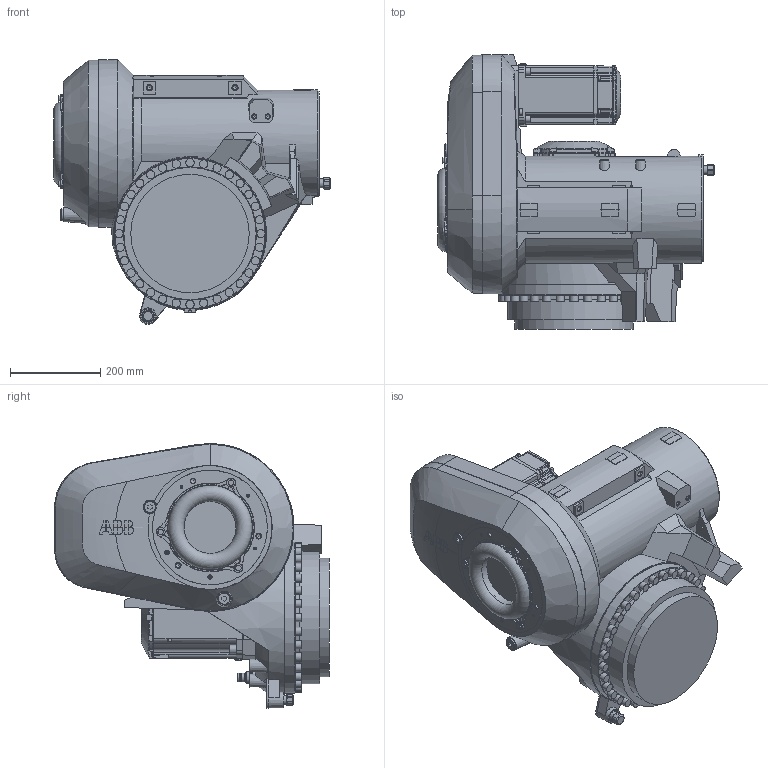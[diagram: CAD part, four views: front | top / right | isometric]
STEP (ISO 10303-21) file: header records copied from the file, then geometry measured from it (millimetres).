
FILE_DESCRIPTION (( 'STEP AP214' ), '1' );
FILE_NAME ('IRB6740_240kg-320_OC_00_LINK03_CAD.step', '2026-05-13T05:03:22', ( '' ), ( '' ), 'SwSTEP 2.0', 'SolidWorks 2024', '' );
FILE_SCHEMA (( 'AUTOMOTIVE_DESIGN' ));
Length unit declared in the file: millimetre
Products named in the file (1): IRB6740_240kg-320_OC_00_LINK03_CAD
Bounding box: 614.99 x 610 x 588.36 mm (x, y, z)
Volume: 55808714.8 mm3; surface area: 1855235.7 mm2
Topology: 1 solids, 5 shells, 1605 faces, 4228 edges, 2710 vertices
Faces by surface type: plane 890, cylinder 320, cone 229, bspline 85, torus 67, sphere 14
Full cylindrical faces by diameter (mm): 5 x11, 6.8 x2, 8.5 x4, 10 x9, 10.2 x6, 12 x3, 13 x4, 16.27 x4, 17.7 x1, 18.27 x32, 19 x5, 19.4 x1, 19.7 x2, 19.93 x1, 20 x3, 20.8 x3, 23 x1, 26.5 x1, 27 x3, 28 x1, 28.58 x1, 170 x1, 196 x1, 197.5 x1, 263 x1, 293.8 x1, 294 x1, 335 x1
Entity records: 77945 total; most frequent: CARTESIAN_POINT 23866, ORIENTED_EDGE 7802, DIRECTION 6959, EDGE_CURVE 3901, VERTEX_POINT 2607, AXIS2_PLACEMENT_3D 2585, EDGE_LOOP 1920, VECTOR 1789
